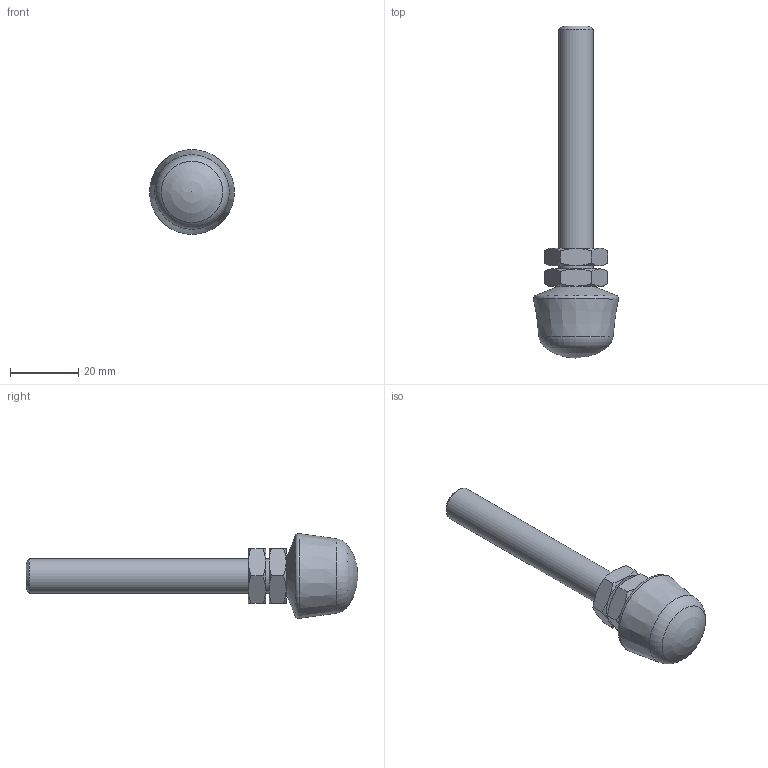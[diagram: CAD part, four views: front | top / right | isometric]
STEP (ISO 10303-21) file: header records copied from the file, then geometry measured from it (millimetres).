
FILE_DESCRIPTION( ( 'STEP AP203' ), '1' );
FILE_NAME( 'C:/Temp/Ganter_Step_05_03_2020/data/2_4/gn_708_1/gn_708_1_st/Clamping bolt GN 708.1-M10-97-B-ST (0).stp', '2020-03-13T05:51:14', ( 'License CC BY-ND 4.0' ), ( 'CADENAS' ), ' ', 'PARTsolutions', ' ' );
FILE_SCHEMA( ( 'CONFIG_CONTROL_DESIGN' ) );
Length unit declared in the file: millimetre
Products named in the file (3): Clamping bolt GN 708.1-M10-97-B-ST (0); _Andrueckschraube GN 708.1-M10-97-B-ST (0)-1; _Andrueckschraube GN 708.1-M10-97-B-ST-2
Assembly tree (3 placements, depth 2):
  Clamping bolt GN 708.1-M10-97-B-ST (0)
    _Andrueckschraube GN 708.1-M10-97-B-ST (0)-1
    _Andrueckschraube GN 708.1-M10-97-B-ST-2  x2
Bounding box: 24.8 x 97 x 24.8 mm (x, y, z)
Volume: 14837.2 mm3; surface area: 5667.4 mm2
Topology: 3 solids, 3 shells, 54 faces, 114 edges, 65 vertices
Faces by surface type: cone 31, plane 17, cylinder 3, torus 2, sphere 1
Full cylindrical faces by diameter (mm): 8.376 x2, 10 x1
Entity records: 958 total; most frequent: CARTESIAN_POINT 261, DIRECTION 122, ORIENTED_EDGE 106, AXIS2_PLACEMENT_3D 58, EDGE_CURVE 53, EDGE_LOOP 42, VERTEX_POINT 37, FACE_OUTER_BOUND 35
